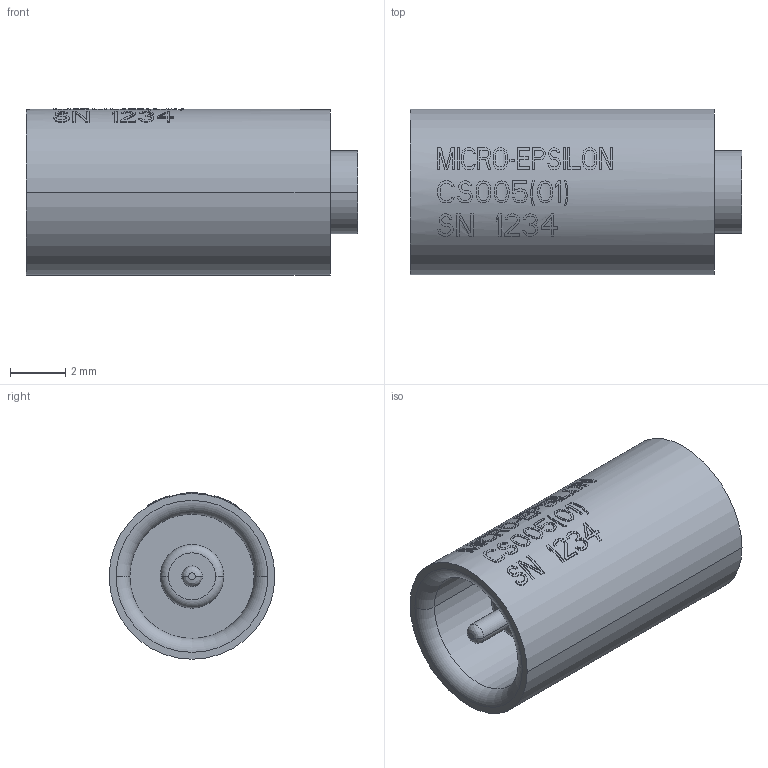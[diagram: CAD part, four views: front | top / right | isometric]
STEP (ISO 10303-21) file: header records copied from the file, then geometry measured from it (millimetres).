
FILE_DESCRIPTION((''),'2;1');
FILE_NAME('CS005_01','2009-08-21T',('11000065'),(''),'PRO/ENGINEER BY PARAMETRIC TECHNOLOGY CORPORATION, 2008490','PRO/ENGINEER BY PARAMETRIC TECHNOLOGY CORPORATION, 2008490','');
FILE_SCHEMA(('AUTOMOTIVE_DESIGN { 1 2 10303 214 0 1 1 1 }'));
Length unit declared in the file: millimetre
Products named in the file (1): CS005_01
Bounding box: 12 x 6 x 6.03 mm (x, y, z)
Volume: 262 mm3; surface area: 347.5 mm2
Topology: 1 solids, 1 shells, 834 faces, 2354 edges, 1566 vertices
Faces by surface type: plane 770, cylinder 56, torus 4, cone 2, bspline 2
Entity records: 34166 total; most frequent: CARTESIAN_POINT 6976, ORIENTED_EDGE 4708, DIRECTION 3198, PRESENTATION_STYLE_ASSIGNMENT 2386, STYLED_ITEM 2357, CURVE_STYLE 2354, EDGE_CURVE 2354, VERTEX_POINT 1566
